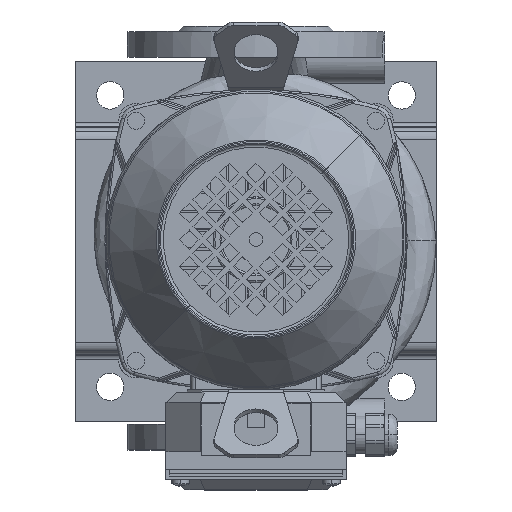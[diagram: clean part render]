
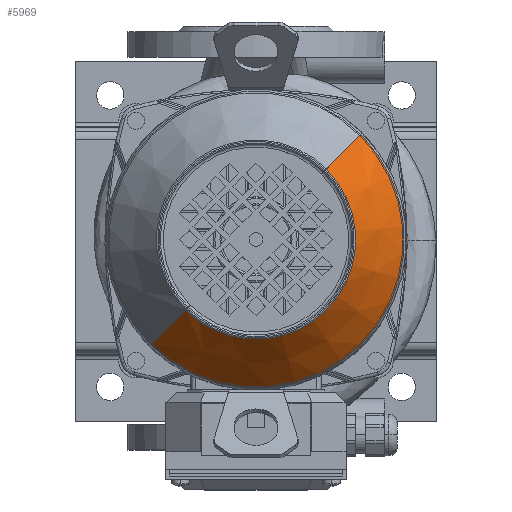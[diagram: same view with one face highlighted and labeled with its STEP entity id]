
A CAD part, top view. The second image highlights one B-rep face of the part: STEP entity #5969.
In plain terms, the highlighted conical face has half-angle 37 degrees and reference radius 58.108 mm.
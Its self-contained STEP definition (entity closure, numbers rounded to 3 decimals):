
#5969=ADVANCED_FACE('NONE',(#14785),#14786,.T.);
#14785=FACE_OUTER_BOUND('',#31111,.T.);
#14786=CONICAL_SURFACE('',#31112,58.108,0.646);
#31111=EDGE_LOOP('',(#48155,#48156,#48157,#48158));
#31112=AXIS2_PLACEMENT_3D('',#48159,#48160,#48161);
#48155=ORIENTED_EDGE('',*,*,#56913,.F.);
#48156=ORIENTED_EDGE('',*,*,#56911,.F.);
#48157=ORIENTED_EDGE('',*,*,#56914,.F.);
#48158=ORIENTED_EDGE('',*,*,#56915,.T.);
#48159=CARTESIAN_POINT('',(0.0,96.403,0.0));
#48160=DIRECTION('',(-0.0,-1.0,-0.0));
#48161=DIRECTION('',(0.0,0.0,-1.0));
#56911=EDGE_CURVE('NONE',#70190,#70192,#70193,.T.);
#56913=EDGE_CURVE('',#70192,#70195,#70196,.T.);
#56914=EDGE_CURVE('',#70197,#70190,#70198,.T.);
#56915=EDGE_CURVE('NONE',#70197,#70195,#70199,.T.);
#70190=VERTEX_POINT('',#93338);
#70192=VERTEX_POINT('NONE',#93340);
#70193=CIRCLE('',#93341,58.108);
#70195=VERTEX_POINT('NONE',#93343);
#70196=LINE('',#93344,#93345);
#70197=VERTEX_POINT('',#93346);
#70198=LINE('',#93347,#93348);
#70199=CIRCLE('',#93349,86.592);
#93338=CARTESIAN_POINT('',(0.,96.403,58.108));
#93340=CARTESIAN_POINT('',(0.,96.403,-58.108));
#93341=AXIS2_PLACEMENT_3D('',#104090,#104091,#104092);
#93343=CARTESIAN_POINT('',(0.0,58.603,-86.592));
#93344=CARTESIAN_POINT('',(0.,96.403,-58.108));
#93345=VECTOR('',#104096,1.0);
#93346=CARTESIAN_POINT('',(0.,58.603,86.592));
#93347=CARTESIAN_POINT('',(0.,96.403,58.108));
#93348=VECTOR('',#104097,1.0);
#93349=AXIS2_PLACEMENT_3D('',#104098,#104099,#104100);
#104090=CARTESIAN_POINT('',(0.0,96.403,0.0));
#104091=DIRECTION('',(-0.0,1.0,0.0));
#104092=DIRECTION('',(0.0,0.0,1.0));
#104096=DIRECTION('',(0.,-0.799,-0.602));
#104097=DIRECTION('',(0.,0.799,-0.602));
#104098=CARTESIAN_POINT('',(0.0,58.603,0.0));
#104099=DIRECTION('',(-0.0,1.0,0.0));
#104100=DIRECTION('',(0.0,0.0,1.0));
